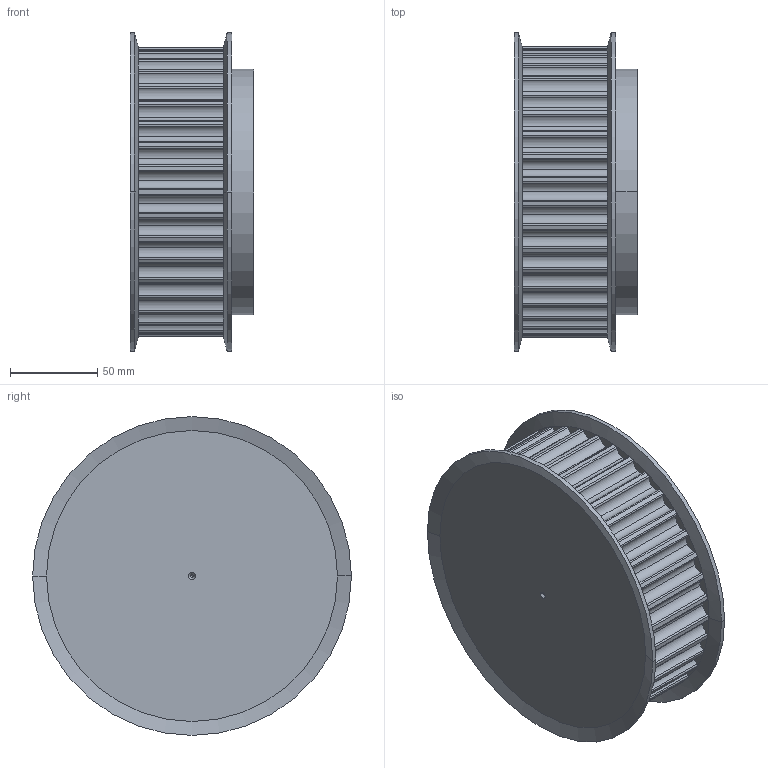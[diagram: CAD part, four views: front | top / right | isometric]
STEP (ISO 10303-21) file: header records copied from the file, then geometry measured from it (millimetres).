
FILE_DESCRIPTION(('STEP AP203'),'1');
FILE_NAME('38_-_14_m_40.stp','2019-06-06T14:30:25',('TraceParts'),('TraceParts S.A.'),'Spatial InterOp 3D',' ',' ');
FILE_SCHEMA(('CONFIG_CONTROL_DESIGN'));
Length unit declared in the file: millimetre
Products named in the file (1): 1
Bounding box: 71.14 x 183 x 183 mm (x, y, z)
Volume: 1368150.8 mm3; surface area: 107833.9 mm2
Topology: 1 solids, 1 shells, 223 faces, 638 edges, 418 vertices
Faces by surface type: cylinder 200, cone 18, plane 5
Entity records: 7536 total; most frequent: DIRECTION 1498, CARTESIAN_POINT 1276, ORIENTED_EDGE 1268, AXIS2_PLACEMENT_3D 640, EDGE_CURVE 634, VERTEX_POINT 418, CIRCLE 416, EDGE_LOOP 228
